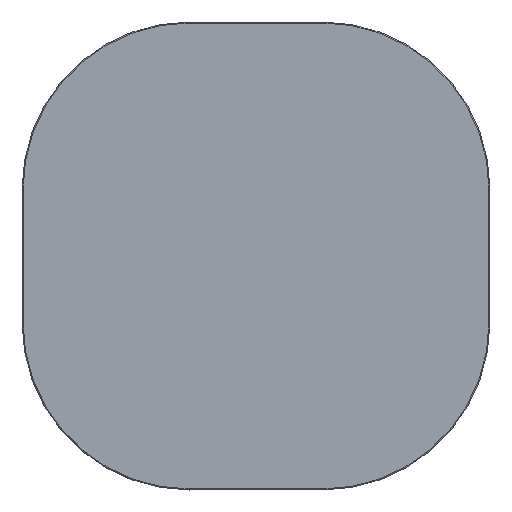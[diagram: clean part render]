
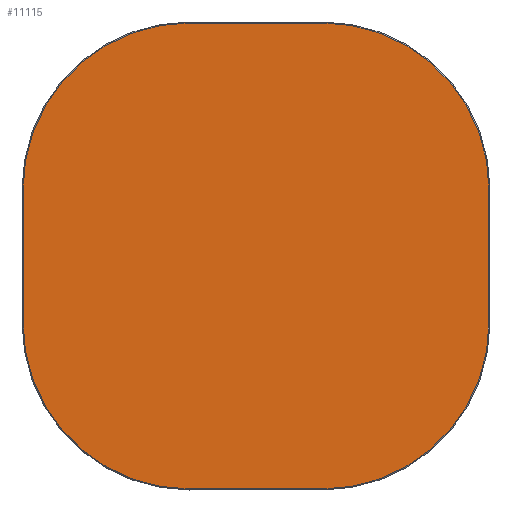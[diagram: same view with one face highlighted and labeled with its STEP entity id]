
A CAD part, top view. The second image highlights one B-rep face of the part: STEP entity #11115.
In plain terms, the highlighted planar face has unit normal (0, 0, 1).
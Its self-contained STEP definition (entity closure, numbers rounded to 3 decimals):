
#11040=CARTESIAN_POINT('',(0.,0.,20.));
#11041=DIRECTION('',(1.,0.,0.));
#11042=DIRECTION('',(0.,0.,1.));
#11043=AXIS2_PLACEMENT_3D('',#11040,#11042,#11041);
#11044=PLANE('',#11043);
#11045=CARTESIAN_POINT('',(-100.,-348.5,20.));
#11046=VERTEX_POINT('',#11045);
#11047=CARTESIAN_POINT('',(100.,-348.5,20.));
#11048=VERTEX_POINT('',#11047);
#11049=CARTESIAN_POINT('',(-100.,-348.5,20.));
#11050=DIRECTION('',(1.,0.,0.));
#11051=VECTOR('',#11050,200.);
#11052=LINE('',#11049,#11051);
#11053=EDGE_CURVE('',#11046,#11048,#11052,.T.);
#11054=ORIENTED_EDGE('E105',*,*,#11053,.T.);
#11055=CARTESIAN_POINT('',(348.5,-100.,20.));
#11056=VERTEX_POINT('',#11055);
#11057=CARTESIAN_POINT('',(100.,-100.,20.));
#11058=DIRECTION('',(0.,-1.,0.));
#11059=DIRECTION('',(0.,0.,1.));
#11060=AXIS2_PLACEMENT_3D('',#11057,#11059,#11058);
#11061=CIRCLE('',#11060,248.5);
#11062=EDGE_CURVE('',#11048,#11056,#11061,.T.);
#11063=ORIENTED_EDGE('E107',*,*,#11062,.T.);
#11064=CARTESIAN_POINT('',(348.5,100.,20.));
#11065=VERTEX_POINT('',#11064);
#11066=CARTESIAN_POINT('',(348.5,-100.,20.));
#11067=DIRECTION('',(0.,1.,0.));
#11068=VECTOR('',#11067,200.);
#11069=LINE('',#11066,#11068);
#11070=EDGE_CURVE('',#11056,#11065,#11069,.T.);
#11071=ORIENTED_EDGE('E109',*,*,#11070,.T.);
#11072=CARTESIAN_POINT('',(100.,348.5,20.));
#11073=VERTEX_POINT('',#11072);
#11074=CARTESIAN_POINT('',(100.,100.,20.));
#11075=DIRECTION('',(1.,0.,0.));
#11076=DIRECTION('',(0.,0.,1.));
#11077=AXIS2_PLACEMENT_3D('',#11074,#11076,#11075);
#11078=CIRCLE('',#11077,248.5);
#11079=EDGE_CURVE('',#11065,#11073,#11078,.T.);
#11080=ORIENTED_EDGE('E111',*,*,#11079,.T.);
#11081=CARTESIAN_POINT('',(-100.,348.5,20.));
#11082=VERTEX_POINT('',#11081);
#11083=CARTESIAN_POINT('',(100.,348.5,20.));
#11084=DIRECTION('',(-1.,0.,0.));
#11085=VECTOR('',#11084,200.);
#11086=LINE('',#11083,#11085);
#11087=EDGE_CURVE('',#11073,#11082,#11086,.T.);
#11088=ORIENTED_EDGE('E113',*,*,#11087,.T.);
#11089=CARTESIAN_POINT('',(-348.5,100.,20.));
#11090=VERTEX_POINT('',#11089);
#11091=CARTESIAN_POINT('',(-100.,100.,20.));
#11092=DIRECTION('',(0.,1.,0.));
#11093=DIRECTION('',(0.,0.,1.));
#11094=AXIS2_PLACEMENT_3D('',#11091,#11093,#11092);
#11095=CIRCLE('',#11094,248.5);
#11096=EDGE_CURVE('',#11082,#11090,#11095,.T.);
#11097=ORIENTED_EDGE('E115',*,*,#11096,.T.);
#11098=CARTESIAN_POINT('',(-348.5,-100.,20.));
#11099=VERTEX_POINT('',#11098);
#11100=CARTESIAN_POINT('',(-348.5,100.,20.));
#11101=DIRECTION('',(0.,-1.,0.));
#11102=VECTOR('',#11101,200.);
#11103=LINE('',#11100,#11102);
#11104=EDGE_CURVE('',#11090,#11099,#11103,.T.);
#11105=ORIENTED_EDGE('E117',*,*,#11104,.T.);
#11106=CARTESIAN_POINT('',(-100.,-100.,20.));
#11107=DIRECTION('',(-1.,0.,0.));
#11108=DIRECTION('',(0.,0.,1.));
#11109=AXIS2_PLACEMENT_3D('',#11106,#11108,#11107);
#11110=CIRCLE('',#11109,248.5);
#11111=EDGE_CURVE('',#11099,#11046,#11110,.T.);
#11112=ORIENTED_EDGE('E119',*,*,#11111,.T.);
#11113=EDGE_LOOP('',(#11054,#11063,#11071,#11080,#11088,#11097,#11105,#11112));
#11114=FACE_OUTER_BOUND('',#11113,.T.);
#11115=ADVANCED_FACE('F2',(#11114),#11044,.T.);
